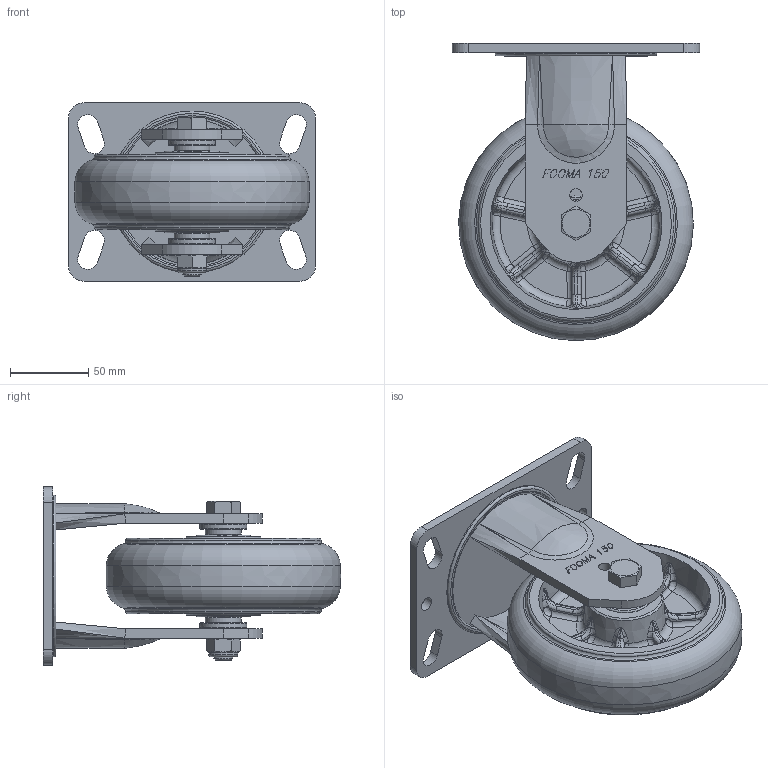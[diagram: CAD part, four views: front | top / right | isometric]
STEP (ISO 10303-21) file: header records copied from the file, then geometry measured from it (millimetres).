
FILE_DESCRIPTION(/* description */ (''),/* implementation_level */ '2;1');
FILE_NAME(/* name */ 'E:\★.DWG\PMH-SERIES\3D\홈페이지용\20180122-STEP\PMH-150-ARF-MUD.stp',/* time_stamp */ '2018-01-22T14:31:44+09:00',/* author */ ('장용하'),/* organization */ (''),/* preprocessor_version */ 'ST-DEVELOPER v16.13',/* originating_system */ 'Autodesk Inventor 2018',/* authorisation */ '');
FILE_SCHEMA (('AUTOMOTIVE_DESIGN { 1 0 10303 214 3 1 1 }'));
Length unit declared in the file: millimetre
Products named in the file (1): PMH-150-ARF-MUD_Shrinkwrap_1
Bounding box: 158 x 189.99 x 114 mm (x, y, z)
Volume: 702029.3 mm3; surface area: 148294.8 mm2
Topology: 3 solids, 3 shells, 1520 faces, 3953 edges, 2493 vertices
Faces by surface type: plane 964, bspline 313, cylinder 178, torus 46, cone 19
Full cylindrical faces by diameter (mm): 8 x2, 9 x2, 12 x1, 18.5 x1, 21.667 x2, 21.867 x2, 22.9 x2, 28.133 x2, 28.333 x2, 30 x2, 35 x2, 102.5 x1, 103.5 x1, 125 x2
Entity records: 55457 total; most frequent: CARTESIAN_POINT 18306, ORIENTED_EDGE 7762, DIRECTION 6588, EDGE_CURVE 3881, LINE 2720, VECTOR 2720, VERTEX_POINT 2480, AXIS2_PLACEMENT_3D 1934
